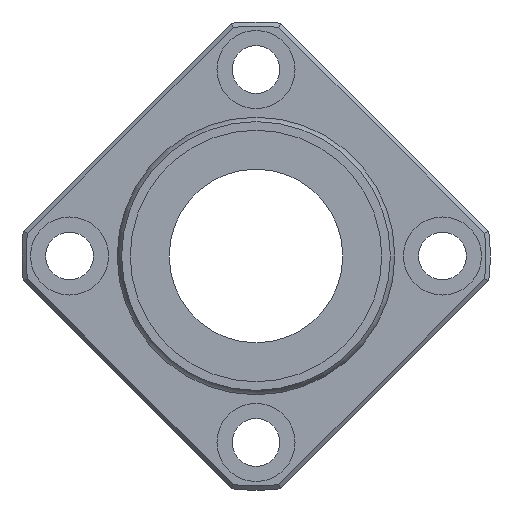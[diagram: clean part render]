
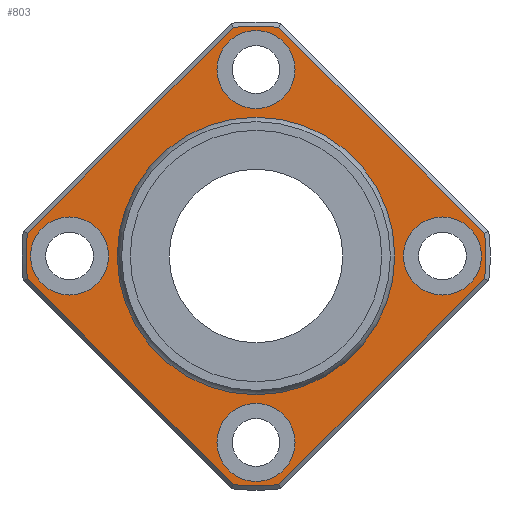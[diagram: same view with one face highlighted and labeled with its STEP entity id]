
A CAD part, left-side view. The second image highlights one B-rep face of the part: STEP entity #803.
In plain terms, the highlighted planar face has unit normal (-1, 0, 0).
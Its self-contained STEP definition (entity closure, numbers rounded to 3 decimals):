
#498=CARTESIAN_POINT('',(36.,-2.621,-26.37));
#499=VERTEX_POINT('',#498);
#507=CARTESIAN_POINT('',(36.,2.621,-26.37));
#508=VERTEX_POINT('',#507);
#509=CARTESIAN_POINT('',(36.,0.0,0.0));
#510=DIRECTION('',(1.0,0.0,0.0));
#511=DIRECTION('',(0.0,0.0,-1.0));
#512=AXIS2_PLACEMENT_3D('',#509,#510,#511);
#513=CIRCLE('',#512,26.5);
#514=EDGE_CURVE('',#499,#508,#513,.T.);
#540=CARTESIAN_POINT('',(36.,26.37,-2.621));
#541=VERTEX_POINT('',#540);
#542=CARTESIAN_POINT('',(36.,2.621,-26.37));
#543=DIRECTION('',(0.0,0.707,0.707));
#544=VECTOR('',#543,33.586);
#545=LINE('',#542,#544);
#546=EDGE_CURVE('',#508,#541,#545,.T.);
#573=CARTESIAN_POINT('',(36.,26.37,2.621));
#574=VERTEX_POINT('',#573);
#575=CARTESIAN_POINT('',(36.,0.0,0.0));
#576=DIRECTION('',(1.0,0.0,0.0));
#577=DIRECTION('',(0.0,0.0,1.0));
#578=AXIS2_PLACEMENT_3D('',#575,#576,#577);
#579=CIRCLE('',#578,26.5);
#580=EDGE_CURVE('',#541,#574,#579,.T.);
#604=CARTESIAN_POINT('',(36.,2.621,26.37));
#605=VERTEX_POINT('',#604);
#606=CARTESIAN_POINT('',(36.,26.37,2.621));
#607=DIRECTION('',(0.0,-0.707,0.707));
#608=VECTOR('',#607,33.586);
#609=LINE('',#606,#608);
#610=EDGE_CURVE('',#574,#605,#609,.T.);
#629=CARTESIAN_POINT('',(36.,-2.621,26.37));
#630=VERTEX_POINT('',#629);
#631=CARTESIAN_POINT('',(36.,0.0,0.0));
#632=DIRECTION('',(1.0,0.0,0.0));
#633=DIRECTION('',(0.0,0.0,1.0));
#634=AXIS2_PLACEMENT_3D('',#631,#632,#633);
#635=CIRCLE('',#634,26.5);
#636=EDGE_CURVE('',#605,#630,#635,.T.);
#655=CARTESIAN_POINT('',(36.,-26.37,2.621));
#656=VERTEX_POINT('',#655);
#657=CARTESIAN_POINT('',(36.,-2.621,26.37));
#658=DIRECTION('',(0.0,-0.707,-0.707));
#659=VECTOR('',#658,33.586);
#660=LINE('',#657,#659);
#661=EDGE_CURVE('',#630,#656,#660,.T.);
#680=CARTESIAN_POINT('',(36.,-26.37,-2.621));
#681=VERTEX_POINT('',#680);
#682=CARTESIAN_POINT('',(36.,0.0,0.0));
#683=DIRECTION('',(1.0,0.0,0.0));
#684=DIRECTION('',(0.0,0.0,1.0));
#685=AXIS2_PLACEMENT_3D('',#682,#683,#684);
#686=CIRCLE('',#685,26.5);
#687=EDGE_CURVE('',#656,#681,#686,.T.);
#706=CARTESIAN_POINT('',(36.,-26.37,-2.621));
#707=DIRECTION('',(0.0,0.707,-0.707));
#708=VECTOR('',#707,33.586);
#709=LINE('',#706,#708);
#710=EDGE_CURVE('',#681,#499,#709,.T.);
#733=CARTESIAN_POINT('',(36.,0.0,21.387));
#734=DIRECTION('',(-1.0,0.0,0.0));
#735=DIRECTION('',(0.0,0.0,1.0));
#736=AXIS2_PLACEMENT_3D('',#733,#734,#735);
#737=PLANE('',#736);
#738=ORIENTED_EDGE('',*,*,#514,.F.);
#739=ORIENTED_EDGE('',*,*,#710,.F.);
#740=ORIENTED_EDGE('',*,*,#687,.F.);
#741=ORIENTED_EDGE('',*,*,#661,.F.);
#742=ORIENTED_EDGE('',*,*,#636,.F.);
#743=ORIENTED_EDGE('',*,*,#610,.F.);
#744=ORIENTED_EDGE('',*,*,#580,.F.);
#745=ORIENTED_EDGE('',*,*,#546,.F.);
#746=EDGE_LOOP('',(#738,#739,#740,#741,#742,#743,#744,#745));
#747=FACE_OUTER_BOUND('',#746,.T.);
#748=CARTESIAN_POINT('',(36.,0.0,15.773));
#749=VERTEX_POINT('',#748);
#750=CARTESIAN_POINT('',(36.,0.0,0.0));
#751=DIRECTION('',(-1.0,0.0,0.0));
#752=DIRECTION('',(0.0,0.0,1.0));
#753=AXIS2_PLACEMENT_3D('',#750,#751,#752);
#754=CIRCLE('',#753,15.773);
#755=EDGE_CURVE('',#749,#749,#754,.T.);
#756=ORIENTED_EDGE('',*,*,#755,.F.);
#757=EDGE_LOOP('',(#756));
#758=FACE_BOUND('',#757,.T.);
#759=CARTESIAN_POINT('',(36.0,-17.0,0.));
#760=VERTEX_POINT('',#759);
#761=CARTESIAN_POINT('',(36.,-21.5,0.));
#762=DIRECTION('',(1.0,0.0,0.0));
#763=DIRECTION('',(0.0,1.0,0.0));
#764=AXIS2_PLACEMENT_3D('',#761,#762,#763);
#765=CIRCLE('',#764,4.5);
#766=EDGE_CURVE('',#760,#760,#765,.T.);
#767=ORIENTED_EDGE('',*,*,#766,.T.);
#768=EDGE_LOOP('',(#767));
#769=FACE_BOUND('',#768,.T.);
#770=CARTESIAN_POINT('',(36.0,26.0,0.));
#771=VERTEX_POINT('',#770);
#772=CARTESIAN_POINT('',(36.,21.5,0.));
#773=DIRECTION('',(1.0,0.0,0.0));
#774=DIRECTION('',(0.0,1.0,0.0));
#775=AXIS2_PLACEMENT_3D('',#772,#773,#774);
#776=CIRCLE('',#775,4.5);
#777=EDGE_CURVE('',#771,#771,#776,.T.);
#778=ORIENTED_EDGE('',*,*,#777,.T.);
#779=EDGE_LOOP('',(#778));
#780=FACE_BOUND('',#779,.T.);
#781=CARTESIAN_POINT('',(36.0,4.5,21.5));
#782=VERTEX_POINT('',#781);
#783=CARTESIAN_POINT('',(36.,0.,21.5));
#784=DIRECTION('',(1.0,0.0,0.0));
#785=DIRECTION('',(0.0,1.0,0.0));
#786=AXIS2_PLACEMENT_3D('',#783,#784,#785);
#787=CIRCLE('',#786,4.5);
#788=EDGE_CURVE('',#782,#782,#787,.T.);
#789=ORIENTED_EDGE('',*,*,#788,.T.);
#790=EDGE_LOOP('',(#789));
#791=FACE_BOUND('',#790,.T.);
#792=CARTESIAN_POINT('',(36.0,4.5,-21.5));
#793=VERTEX_POINT('',#792);
#794=CARTESIAN_POINT('',(36.,0.,-21.5));
#795=DIRECTION('',(1.0,0.0,0.0));
#796=DIRECTION('',(0.0,1.0,0.0));
#797=AXIS2_PLACEMENT_3D('',#794,#795,#796);
#798=CIRCLE('',#797,4.5);
#799=EDGE_CURVE('',#793,#793,#798,.T.);
#800=ORIENTED_EDGE('',*,*,#799,.T.);
#801=EDGE_LOOP('',(#800));
#802=FACE_BOUND('',#801,.T.);
#803=ADVANCED_FACE('',(#747,#758,#769,#780,#791,#802),#737,.T.);
